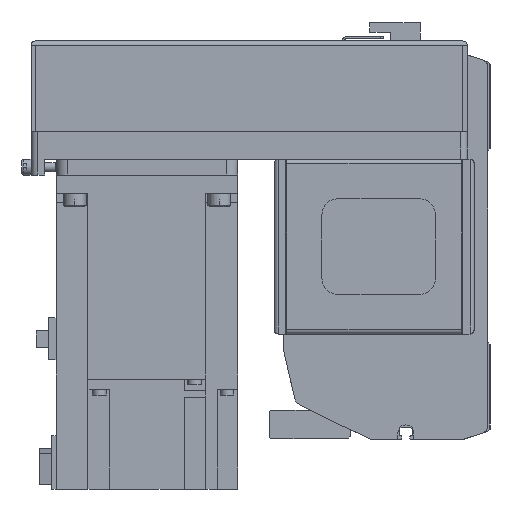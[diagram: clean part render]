
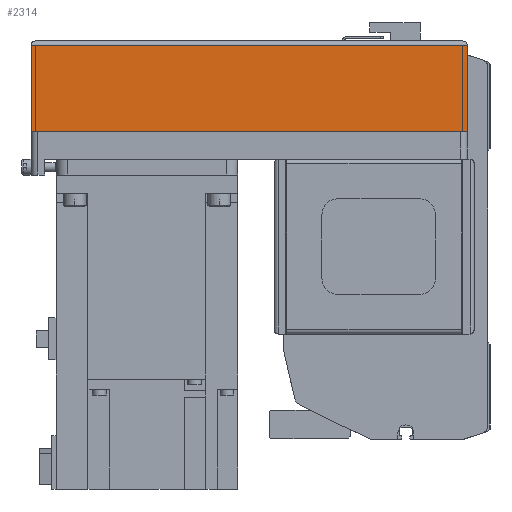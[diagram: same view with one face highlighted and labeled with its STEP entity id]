
A CAD part, left-side view. The second image highlights one B-rep face of the part: STEP entity #2314.
In plain terms, the highlighted planar face has unit normal (-1, 0, 0) as drawn and (0, 1, 0) by its records, which use the part's own axes.
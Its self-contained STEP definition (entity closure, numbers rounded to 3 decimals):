
#2314 = ADVANCED_FACE( '', ( #4991 ), #4992, .T. );
#4991 = FACE_OUTER_BOUND( '', #8051, .T. );
#4992 = PLANE( '', #8052 );
#8051 = EDGE_LOOP( '', ( #14673, #14674, #14675, #14676 ) );
#8052 = AXIS2_PLACEMENT_3D( '', #14677, #14678, #14679 );
#14673 = ORIENTED_EDGE( '', *, *, #18184, .F. );
#14674 = ORIENTED_EDGE( '', *, *, #20332, .F. );
#14675 = ORIENTED_EDGE( '', *, *, #20333, .T. );
#14676 = ORIENTED_EDGE( '', *, *, #17763, .T. );
#14677 = CARTESIAN_POINT( '', ( -192., 40., -50. ) );
#14678 = DIRECTION( '', ( 0., 1., 0. ) );
#14679 = DIRECTION( '', ( 0., 0., 1. ) );
#17763 = EDGE_CURVE( '', #21161, #21159, #21162, .T. );
#18184 = EDGE_CURVE( '', #21906, #21159, #21908, .T. );
#20332 = EDGE_CURVE( '', #25157, #21906, #25158, .T. );
#20333 = EDGE_CURVE( '', #25157, #21161, #25159, .T. );
#21159 = VERTEX_POINT( '', #26141 );
#21161 = VERTEX_POINT( '', #26144 );
#21162 = LINE( '', #26145, #26146 );
#21906 = VERTEX_POINT( '', #27290 );
#21908 = LINE( '', #27293, #27294 );
#25157 = VERTEX_POINT( '', #31875 );
#25158 = LINE( '', #31876, #31877 );
#25159 = LINE( '', #31878, #31879 );
#26141 = CARTESIAN_POINT( '', ( 0., 40., -12.1 ) );
#26144 = CARTESIAN_POINT( '', ( -192., 40., -12.1 ) );
#26145 = CARTESIAN_POINT( '', ( -192., 40., -12.1 ) );
#26146 = VECTOR( '', #32967, 1000. );
#27290 = CARTESIAN_POINT( '', ( 0., 40., -50. ) );
#27293 = CARTESIAN_POINT( '', ( 0., 40., -50. ) );
#27294 = VECTOR( '', #33470, 1000. );
#31875 = CARTESIAN_POINT( '', ( -192., 40., -50. ) );
#31876 = CARTESIAN_POINT( '', ( -192., 40., -50. ) );
#31877 = VECTOR( '', #36134, 1000. );
#31878 = CARTESIAN_POINT( '', ( -192., 40., -50. ) );
#31879 = VECTOR( '', #36135, 1000. );
#32967 = DIRECTION( '', ( 1., 0., 0. ) );
#33470 = DIRECTION( '', ( 0., 0., 1. ) );
#36134 = DIRECTION( '', ( 1., 0., 0. ) );
#36135 = DIRECTION( '', ( 0., 0., 1. ) );
